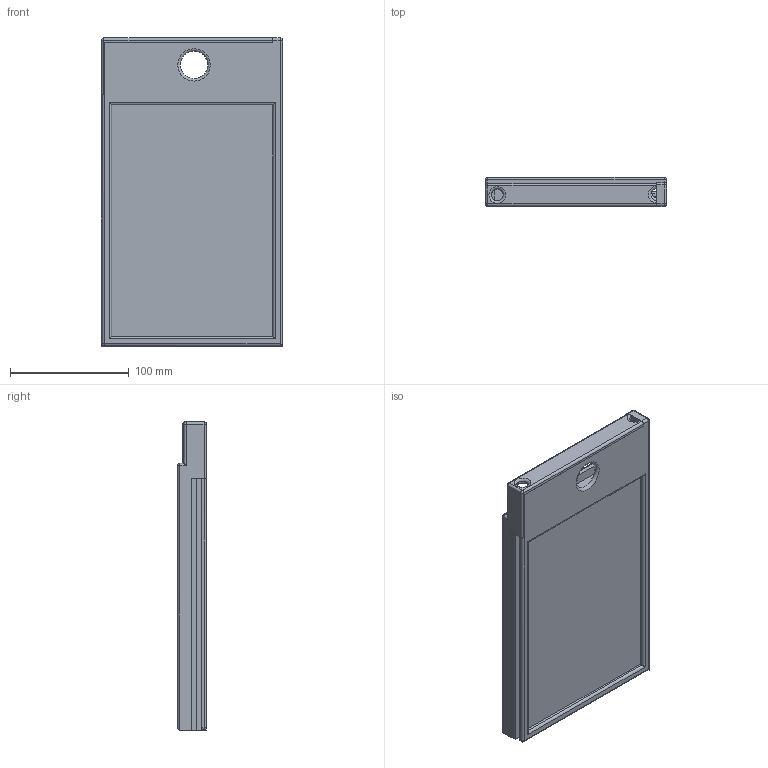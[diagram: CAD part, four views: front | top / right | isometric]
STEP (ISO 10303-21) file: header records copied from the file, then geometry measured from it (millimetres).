
FILE_DESCRIPTION(/* description */ (''),/* implementation_level */ '2;1');
FILE_NAME(/* name */ 'BodyLetter.step',/* time_stamp */ '2026-06-27T03:53:01+02:00',/* author */ (''),/* organization */ (''),/* preprocessor_version */ 'ST-DEVELOPER v20.1',/* originating_system */ 'Autodesk Translation Framework v15.8.0.0',/* authorisation */ '');
FILE_SCHEMA (('AUTOMOTIVE_DESIGN { 1 0 10303 214 3 1 1 }'));
Length unit declared in the file: millimetre
Products named in the file (2): 2026-06-27-03-53-01-839; 2026-06-27-03-53-01-840
Assembly tree (1 placements, depth 2):
  2026-06-27-03-53-01-839
    2026-06-27-03-53-01-840
Bounding box: 152.57 x 24.35 x 259.96 mm (x, y, z)
Volume: 386391.3 mm3; surface area: 182811.6 mm2
Topology: 1 solids, 1 shells, 93 faces, 256 edges, 160 vertices
Faces by surface type: plane 48, cylinder 32, sphere 7, torus 6
Full cylindrical faces by diameter (mm): 10 x1
Entity records: 3080 total; most frequent: CARTESIAN_POINT 603, ORIENTED_EDGE 512, DIRECTION 511, EDGE_CURVE 256, LINE 175, VECTOR 175, AXIS2_PLACEMENT_3D 168, VERTEX_POINT 160
